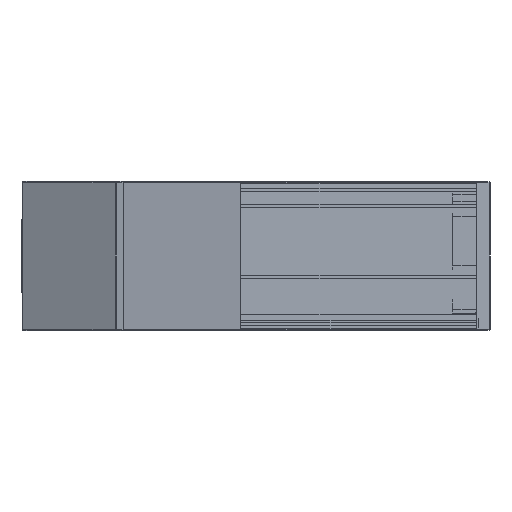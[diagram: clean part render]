
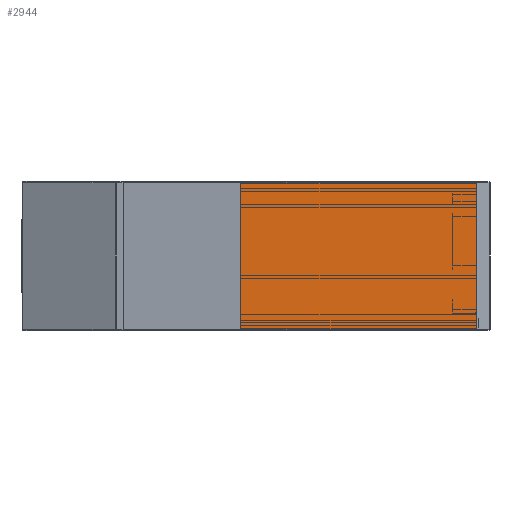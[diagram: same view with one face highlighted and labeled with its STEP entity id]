
A CAD part, left-side view. The second image highlights one B-rep face of the part: STEP entity #2944.
In plain terms, the highlighted free-form (B-spline) face has degree [2, 1] with [3, 2] control points.
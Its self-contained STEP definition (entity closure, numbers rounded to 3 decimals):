
#2944=ADVANCED_FACE('',(#6265),#116880,.T.);
#6265=FACE_OUTER_BOUND('',#9715,.T.);
#9715=EDGE_LOOP('',(#25275,#25276,#25277,#25278));
#25275=ORIENTED_EDGE('',*,*,#84663,.T.);
#25276=ORIENTED_EDGE('',*,*,#84662,.F.);
#25277=ORIENTED_EDGE('',*,*,#84664,.T.);
#25278=ORIENTED_EDGE('',*,*,#84665,.T.);
#29947=(
BOUNDED_CURVE()
B_SPLINE_CURVE(1,(#251565,#251566),.UNSPECIFIED.,.F.,.F.)
B_SPLINE_CURVE_WITH_KNOTS((2,2),(0.,118.243),.UNSPECIFIED.)
CURVE()
GEOMETRIC_REPRESENTATION_ITEM()
RATIONAL_B_SPLINE_CURVE((1.,1.))
REPRESENTATION_ITEM('')
);
#29948=(
BOUNDED_CURVE()
B_SPLINE_CURVE(2,(#251575,#251576,#251577),.UNSPECIFIED.,.F.,.F.)
B_SPLINE_CURVE_WITH_KNOTS((3,3),(-509.152,-435.152),
 .UNSPECIFIED.)
CURVE()
GEOMETRIC_REPRESENTATION_ITEM()
RATIONAL_B_SPLINE_CURVE((1.,1.,1.))
REPRESENTATION_ITEM('')
);
#29949=(
BOUNDED_CURVE()
B_SPLINE_CURVE(1,(#251580,#251581),.UNSPECIFIED.,.F.,.F.)
B_SPLINE_CURVE_WITH_KNOTS((2,2),(0.,118.243),.UNSPECIFIED.)
CURVE()
GEOMETRIC_REPRESENTATION_ITEM()
RATIONAL_B_SPLINE_CURVE((1.,1.))
REPRESENTATION_ITEM('')
);
#30043=(
BOUNDED_CURVE()
B_SPLINE_CURVE(2,(#252445,#252446,#252447),.UNSPECIFIED.,.F.,.F.)
B_SPLINE_CURVE_WITH_KNOTS((3,3),(-509.152,-435.152),
 .UNSPECIFIED.)
CURVE()
GEOMETRIC_REPRESENTATION_ITEM()
RATIONAL_B_SPLINE_CURVE((1.,1.,1.))
REPRESENTATION_ITEM('')
);
#46712=PCURVE('',#116879,#64838);
#46713=PCURVE('',#116880,#64839);
#46714=PCURVE('',#116880,#64840);
#46715=PCURVE('',#116880,#64841);
#46716=PCURVE('',#116880,#64842);
#46718=PCURVE('',#116881,#64844);
#46879=PCURVE('',#119132,#65005);
#47601=PCURVE('',#117226,#65727);
#64838=DEFINITIONAL_REPRESENTATION('',(#107190),#267174);
#64839=DEFINITIONAL_REPRESENTATION('',(#107192),#267174);
#64840=DEFINITIONAL_REPRESENTATION('',(#107193),#267174);
#64841=DEFINITIONAL_REPRESENTATION('',(#107194),#267174);
#64842=DEFINITIONAL_REPRESENTATION('',(#107195),#267174);
#64844=DEFINITIONAL_REPRESENTATION('',(#107198),#267174);
#65005=DEFINITIONAL_REPRESENTATION('',(#30043),#267174);
#65727=DEFINITIONAL_REPRESENTATION('',(#108070),#267174);
#75587=SURFACE_CURVE('',#29947,(#46712,#46714),.PCURVE_S1.);
#75588=SURFACE_CURVE('',#107191,(#46713,#47601),.PCURVE_S1.);
#75589=SURFACE_CURVE('',#29948,(#46715,#46879),.PCURVE_S1.);
#75590=SURFACE_CURVE('',#29949,(#46716,#46718),.PCURVE_S1.);
#84662=EDGE_CURVE('',#114982,#114983,#75587,.T.);
#84663=EDGE_CURVE('',#114985,#114983,#75588,.T.);
#84664=EDGE_CURVE('',#114982,#114984,#75589,.T.);
#84665=EDGE_CURVE('',#114984,#114985,#75590,.T.);
#107190=B_SPLINE_CURVE_WITH_KNOTS('',1,(#251567,#251568),.UNSPECIFIED.,
 .F.,.F.,(2,2),(0.,118.243),.UNSPECIFIED.);
#107191=B_SPLINE_CURVE_WITH_KNOTS('',1,(#251569,#251570),.UNSPECIFIED.,
 .F.,.F.,(2,2),(-86.227,-12.227),.UNSPECIFIED.);
#107192=B_SPLINE_CURVE_WITH_KNOTS('',1,(#251571,#251572),.UNSPECIFIED.,
 .F.,.F.,(2,2),(-86.227,-12.227),.UNSPECIFIED.);
#107193=B_SPLINE_CURVE_WITH_KNOTS('',1,(#251573,#251574),.UNSPECIFIED.,
 .F.,.F.,(2,2),(0.,118.243),.UNSPECIFIED.);
#107194=B_SPLINE_CURVE_WITH_KNOTS('',1,(#251578,#251579),.UNSPECIFIED.,
 .F.,.F.,(2,2),(-509.152,-435.152),.UNSPECIFIED.);
#107195=B_SPLINE_CURVE_WITH_KNOTS('',1,(#251582,#251583),.UNSPECIFIED.,
 .F.,.F.,(2,2),(0.,118.243),.UNSPECIFIED.);
#107198=B_SPLINE_CURVE_WITH_KNOTS('',1,(#251602,#251603),.UNSPECIFIED.,
 .F.,.F.,(2,2),(0.,118.243),.UNSPECIFIED.);
#108070=B_SPLINE_CURVE_WITH_KNOTS('',1,(#255861,#255862),.UNSPECIFIED.,
 .F.,.F.,(2,2),(-86.227,-12.227),.UNSPECIFIED.);
#114982=VERTEX_POINT('',#248571);
#114983=VERTEX_POINT('',#248572);
#114984=VERTEX_POINT('',#248573);
#114985=VERTEX_POINT('',#248574);
#116879=(
BOUNDED_SURFACE()
B_SPLINE_SURFACE(2,1,((#244356,#244357),(#244358,#244359),(#244360,#244361)),
 .UNSPECIFIED.,.F.,.F.,.F.)
B_SPLINE_SURFACE_WITH_KNOTS((3,3),(2,2),(-509.937,-509.152),
(0.,162.018),.UNSPECIFIED.)
GEOMETRIC_REPRESENTATION_ITEM()
RATIONAL_B_SPLINE_SURFACE(((1.,1.),(0.707,0.707),
(1.,1.)))
REPRESENTATION_ITEM('')
SURFACE()
);
#116880=(
BOUNDED_SURFACE()
B_SPLINE_SURFACE(2,1,((#244362,#244363),(#244364,#244365),(#244366,#244367)),
 .UNSPECIFIED.,.F.,.F.,.F.)
B_SPLINE_SURFACE_WITH_KNOTS((3,3),(2,2),(-509.152,-435.152),
(0.,162.018),.UNSPECIFIED.)
GEOMETRIC_REPRESENTATION_ITEM()
RATIONAL_B_SPLINE_SURFACE(((1.,1.),(1.,1.),(1.,1.)))
REPRESENTATION_ITEM('')
SURFACE()
);
#116881=(
BOUNDED_SURFACE()
B_SPLINE_SURFACE(2,1,((#244368,#244369),(#244370,#244371),(#244372,#244373)),
 .UNSPECIFIED.,.F.,.F.,.F.)
B_SPLINE_SURFACE_WITH_KNOTS((3,3),(2,2),(-435.152,-434.366),
(0.,162.018),.UNSPECIFIED.)
GEOMETRIC_REPRESENTATION_ITEM()
RATIONAL_B_SPLINE_SURFACE(((1.,1.),(0.707,0.707),
(1.,1.)))
REPRESENTATION_ITEM('')
SURFACE()
);
#117226=(
BOUNDED_SURFACE()
B_SPLINE_SURFACE(2,1,((#246850,#246851),(#246852,#246853),(#246854,#246855)),
 .UNSPECIFIED.,.F.,.F.,.F.)
B_SPLINE_SURFACE_WITH_KNOTS((3,3),(2,2),(-717.589,-643.589),
(0.,162.018),.UNSPECIFIED.)
GEOMETRIC_REPRESENTATION_ITEM()
RATIONAL_B_SPLINE_SURFACE(((1.,1.),(1.,1.),(1.,1.)))
REPRESENTATION_ITEM('')
SURFACE()
);
#119132=B_SPLINE_SURFACE_WITH_KNOTS('',1,1,((#248278,#248279),(#248280,
#248281)),.UNSPECIFIED.,.F.,.F.,.F.,(2,2),(2,2),(-10.895,82.855),
(-8.518,60.232),.UNSPECIFIED.);
#244356=CARTESIAN_POINT('',(-27.,0.,0.));
#244357=CARTESIAN_POINT('',(-27.,162.018,0.));
#244358=CARTESIAN_POINT('',(-27.5,0.,0.));
#244359=CARTESIAN_POINT('',(-27.5,162.018,0.));
#244360=CARTESIAN_POINT('',(-27.5,0.,0.5));
#244361=CARTESIAN_POINT('',(-27.5,162.018,0.5));
#244362=CARTESIAN_POINT('',(-27.5,0.,0.5));
#244363=CARTESIAN_POINT('',(-27.5,162.018,0.5));
#244364=CARTESIAN_POINT('',(-27.5,0.,37.5));
#244365=CARTESIAN_POINT('',(-27.5,162.018,37.5));
#244366=CARTESIAN_POINT('',(-27.5,0.,74.5));
#244367=CARTESIAN_POINT('',(-27.5,162.018,74.5));
#244368=CARTESIAN_POINT('',(-27.5,0.,74.5));
#244369=CARTESIAN_POINT('',(-27.5,162.018,74.5));
#244370=CARTESIAN_POINT('',(-27.5,0.,75.));
#244371=CARTESIAN_POINT('',(-27.5,162.018,75.));
#244372=CARTESIAN_POINT('',(-27.,0.,75.));
#244373=CARTESIAN_POINT('',(-27.,162.018,75.));
#246850=CARTESIAN_POINT('',(-129.901,177.364,74.5));
#246851=CARTESIAN_POINT('',(10.411,96.355,74.5));
#246852=CARTESIAN_POINT('',(-129.901,177.364,37.5));
#246853=CARTESIAN_POINT('',(10.411,96.355,37.5));
#246854=CARTESIAN_POINT('',(-129.901,177.364,0.5));
#246855=CARTESIAN_POINT('',(10.411,96.355,0.5));
#248278=CARTESIAN_POINT('',(34.375,0.,-9.375));
#248279=CARTESIAN_POINT('',(-34.375,0.,-9.375));
#248280=CARTESIAN_POINT('',(34.375,0.,84.375));
#248281=CARTESIAN_POINT('',(-34.375,0.,84.375));
#248571=CARTESIAN_POINT('',(-27.5,0.,0.5));
#248572=CARTESIAN_POINT('',(-27.5,118.243,0.5));
#248573=CARTESIAN_POINT('',(-27.5,0.,74.5));
#248574=CARTESIAN_POINT('',(-27.5,118.243,74.5));
#251565=CARTESIAN_POINT('',(-27.5,0.,0.5));
#251566=CARTESIAN_POINT('',(-27.5,118.243,0.5));
#251567=CARTESIAN_POINT('',(-509.152,0.));
#251568=CARTESIAN_POINT('',(-509.152,118.243));
#251569=CARTESIAN_POINT('',(-27.5,118.243,74.5));
#251570=CARTESIAN_POINT('',(-27.5,118.243,0.5));
#251571=CARTESIAN_POINT('',(-435.152,118.243));
#251572=CARTESIAN_POINT('',(-509.152,118.243));
#251573=CARTESIAN_POINT('',(-509.152,0.));
#251574=CARTESIAN_POINT('',(-509.152,118.243));
#251575=CARTESIAN_POINT('',(-27.5,0.,0.5));
#251576=CARTESIAN_POINT('',(-27.5,0.,37.5));
#251577=CARTESIAN_POINT('',(-27.5,0.,74.5));
#251578=CARTESIAN_POINT('',(-509.152,0.));
#251579=CARTESIAN_POINT('',(-435.152,0.));
#251580=CARTESIAN_POINT('',(-27.5,0.,74.5));
#251581=CARTESIAN_POINT('',(-27.5,118.243,74.5));
#251582=CARTESIAN_POINT('',(-435.152,0.));
#251583=CARTESIAN_POINT('',(-435.152,118.243));
#251602=CARTESIAN_POINT('',(-435.152,0.));
#251603=CARTESIAN_POINT('',(-435.152,118.243));
#252445=CARTESIAN_POINT('',(-1.02,53.357));
#252446=CARTESIAN_POINT('',(35.98,53.357));
#252447=CARTESIAN_POINT('',(72.98,53.357));
#255861=CARTESIAN_POINT('',(-717.589,118.243));
#255862=CARTESIAN_POINT('',(-643.589,118.243));
#267174=(
GEOMETRIC_REPRESENTATION_CONTEXT(2)
PARAMETRIC_REPRESENTATION_CONTEXT()
REPRESENTATION_CONTEXT('pspace','')
);
